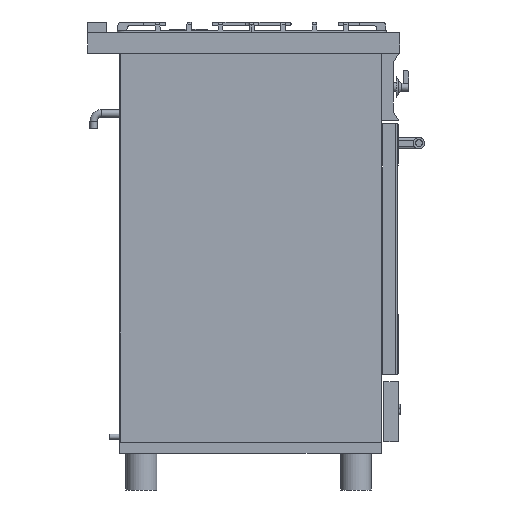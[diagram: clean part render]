
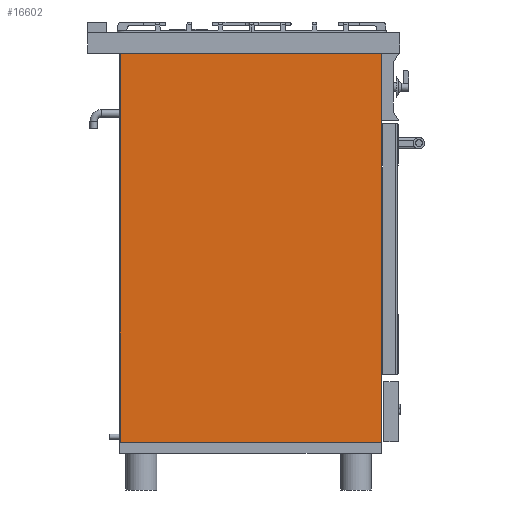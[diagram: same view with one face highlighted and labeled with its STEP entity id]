
A CAD part, left-side view. The second image highlights one B-rep face of the part: STEP entity #16602.
In plain terms, the highlighted planar face has unit normal (-1, 0, 0).
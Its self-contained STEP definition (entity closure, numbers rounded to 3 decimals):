
#6157=ORIENTED_EDGE('',*,*,#8588,.T.);
#6158=ORIENTED_EDGE('',*,*,#8589,.F.);
#6159=ORIENTED_EDGE('',*,*,#8590,.F.);
#6160=ORIENTED_EDGE('',*,*,#8581,.F.);
#8581=EDGE_CURVE('',#10227,#10229,#11596,.T.);
#8588=EDGE_CURVE('',#10227,#10233,#11603,.T.);
#8589=EDGE_CURVE('',#10234,#10233,#11604,.T.);
#8590=EDGE_CURVE('',#10229,#10234,#11605,.T.);
#10227=VERTEX_POINT('',#39685);
#10229=VERTEX_POINT('',#39688);
#10233=VERTEX_POINT('',#39700);
#10234=VERTEX_POINT('',#39704);
#11596=LINE('',#39687,#12961);
#11603=LINE('',#39701,#12968);
#11604=LINE('',#39703,#12969);
#11605=LINE('',#39705,#12970);
#12961=VECTOR('',#23023,1000.);
#12968=VECTOR('',#23034,1000.);
#12969=VECTOR('',#23037,1000.);
#12970=VECTOR('',#23038,1000.);
#14025=EDGE_LOOP('',(#6157,#6158,#6159,#6160));
#15098=FACE_BOUND('',#14025,.T.);
#15645=PLANE('',#18736);
#16602=ADVANCED_FACE('',(#15098),#15645,.F.);
#18736=AXIS2_PLACEMENT_3D('',#39702,#23035,#23036);
#23023=DIRECTION('',(0.,0.,-1.));
#23034=DIRECTION('',(0.,1.,0.));
#23035=DIRECTION('',(1.,0.,0.));
#23036=DIRECTION('',(0.,1.,0.));
#23037=DIRECTION('',(0.,0.,1.));
#23038=DIRECTION('',(0.,1.,0.));
#39685=CARTESIAN_POINT('',(0.,32.93,42.835));
#39687=CARTESIAN_POINT('',(0.,32.93,42.835));
#39688=CARTESIAN_POINT('',(0.,32.93,-700.58));
#39700=CARTESIAN_POINT('',(0.,532.018,42.835));
#39701=CARTESIAN_POINT('',(0.,32.93,42.835));
#39702=CARTESIAN_POINT('',(0.,0.,0.));
#39703=CARTESIAN_POINT('',(0.,532.018,-700.58));
#39704=CARTESIAN_POINT('',(0.,532.018,-700.58));
#39705=CARTESIAN_POINT('',(0.,32.93,-700.58));
